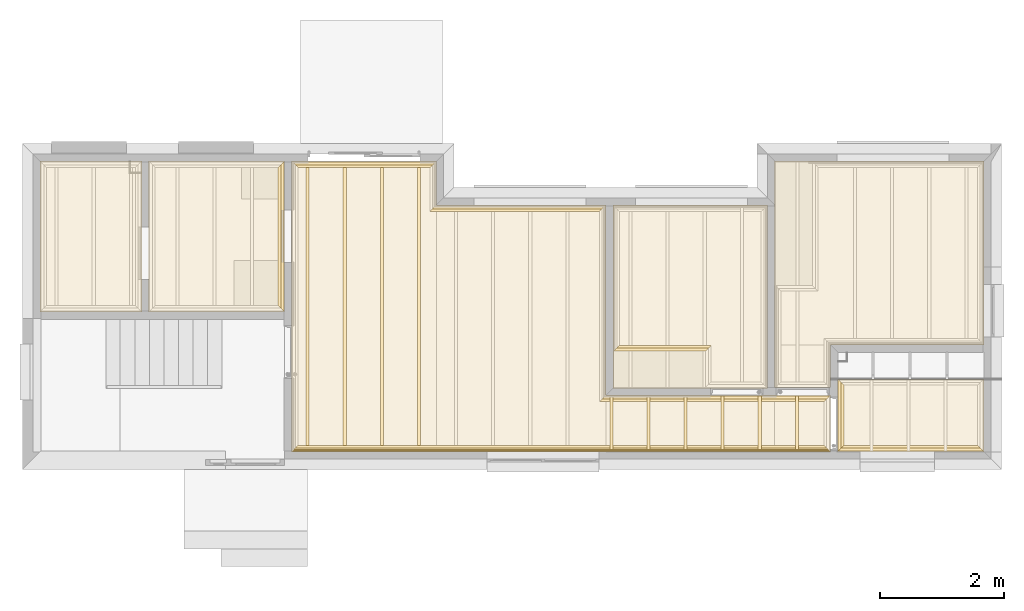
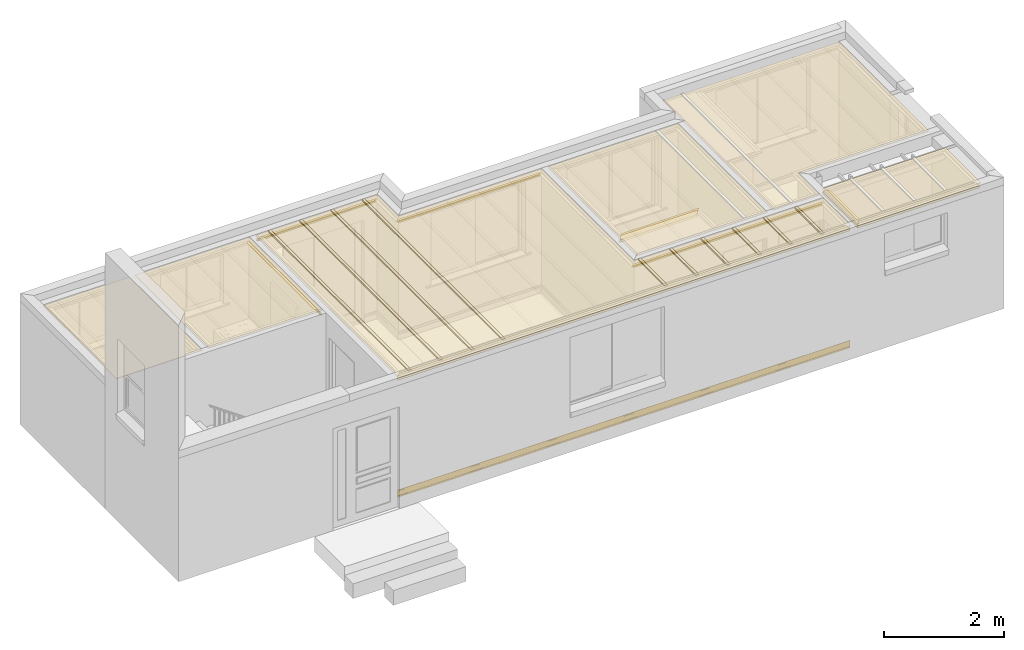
# One storey, part 11 of 15: 12 coverings.
"""IFC2X3 building model written with IfcOpenShell, lengths in millimetres."""

from ifc_helpers import new_model, entity, si_unit, converted_unit, money_unit, direction, frame, origin_with_axes, place, context, subcontext, project, spatial, faceted_brep, source, transform, mapped, material, type_object, element, save


model = new_model("IFC2X3")

# Units and contexts
model_context = context("Model", 3, precision=1e-05, world=origin_with_axes(), true_north=direction((0.0, 1.0)))
body_context = subcontext(model_context, "Body", "Model", "MODEL_VIEW")
ifc_project = project(units=[si_unit("LENGTHUNIT", "METRE", prefix="MILLI"), si_unit("AREAUNIT", "SQUARE_METRE"), si_unit("VOLUMEUNIT", "CUBIC_METRE"), converted_unit("PLANEANGLEUNIT", "DEGREE", entity("IfcPlaneAngleMeasure", 0.0174532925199), si_unit("PLANEANGLEUNIT", "RADIAN"), dimensions=[0, 0, 0, 0, 0, 0, 0]), si_unit("SOLIDANGLEUNIT", "STERADIAN"), money_unit("AUD"), si_unit("TIMEUNIT", "SECOND"), si_unit("MASSUNIT", "GRAM"), si_unit("THERMODYNAMICTEMPERATUREUNIT", "DEGREE_CELSIUS"), si_unit("LUMINOUSINTENSITYUNIT", "LUMEN")], contexts=[model_context])

# Site, building, storey
site_placement = place(None, origin_with_axes())
site = spatial("IfcSite", under=ifc_project, at=site_placement, Name="Lot 1. East Hills", CompositionType="ELEMENT")
building_placement = place(site_placement, origin_with_axes())
building = spatial("IfcBuilding", under=site, at=building_placement, Name="Proposed Units 7 & 8", CompositionType="ELEMENT")
storey_placement = place(building_placement, frame((0.0, 0.0, 3202.0), z_axis=(0.0, 0.0, 1.0), x_axis=(1.0, 0.0, 0.0)))
storey = spatial("IfcBuildingStorey", under=building, at=storey_placement, Name="Ground", CompositionType="ELEMENT", Elevation=3202.0)

# Coverings
ifc_material = material(Name="50 %")
covering_type_1 = type_object("IfcCoveringType", Name="Molding Straight 12", PredefinedType="NOTDEFINED")
shared_shape_1 = source(origin_with_axes(), body_context, "Body", "Brep", [
    faceted_brep([(-3630.00000161, 0.0, -97.7142857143), (0.0, 0.0, -97.7142857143), (-20.5714285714, -20.5714285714, -97.7142857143), (-3650.57143018, -20.5714285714, -97.7142857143), (-3630.00000161, 0.0, -48.8571428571), (0.0, 0.0, -48.8571428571), (-48.8571428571, -48.8571428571, 0.0), (-90.0, -90.0, 0.0), (-90.0, -90.0, -12.8571428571), (-74.5714285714, -74.5714285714, -12.8571428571), (-74.5714285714, -74.5714285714, -25.7142857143), (-60.5952001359, -60.5952001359, -27.5542910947), (-47.5714285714, -47.5714285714, -32.9489139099), (-36.3876623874, -36.3876623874, -41.5305195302), (-27.8060567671, -27.8060567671, -52.7142857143), (-22.4114339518, -22.4114339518, -65.7380572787), (-20.5714285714, -20.5714285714, -79.7142857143), (-3650.57143018, -20.5714285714, -79.7142857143), (-3652.41143556, -22.4114339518, -65.7380572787), (-3657.80605838, -27.8060567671, -52.7142857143), (-3666.387664, -36.3876623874, -41.5305195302), (-3677.57143018, -47.5714285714, -32.9489139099), (-3690.59520175, -60.5952001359, -27.5542910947), (-3704.57143018, -74.5714285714, -25.7142857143), (-3704.57143018, -74.5714285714, -12.8571428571), (-3720.00000161, -90.0, -12.8571428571), (-3720.00000161, -90.0, 0.0), (-3678.85714447, -48.8571428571, 0.0)], [[[0, 1, 2, 3]], [[4, 5, 1, 0]], [[1, 5, 6, 7, 8, 9, 10, 11, 12, 13, 14, 15, 16, 2]], [[3, 2, 16, 17]], [[0, 3, 17, 18, 19, 20, 21, 22, 23, 24, 25, 26, 27, 4]], [[27, 6, 5, 4]], [[26, 7, 6, 27]], [[25, 8, 7, 26]], [[24, 9, 8, 25]], [[23, 10, 9, 24]], [[22, 11, 10, 23]], [[21, 12, 11, 22]], [[20, 13, 12, 21]], [[19, 14, 13, 20]], [[18, 15, 14, 19]], [[17, 16, 15, 18]]]),
])
covering_1_placement = place(storey_placement, frame((13050.0000012, 1183.00000045, 2469.0), z_axis=(0.0, 0.0, 1.0), x_axis=(1.0, 0.0, 0.0)))
element("IfcCovering", 1, at=covering_1_placement, inside=storey, type_object=covering_type_1, material=ifc_material, Name="CEL-MOD-G17 - Molding Straight 12 - object -", PredefinedType="NOTDEFINED", context=body_context, shape_type="MappedRepresentation", body=[
    mapped(shared_shape_1, transform((0.0, 0.0, 0.0))),
])
covering_type_2 = type_object("IfcCoveringType", Name="CEILING BATTEN", PredefinedType="NOTDEFINED")
shared_shape_2 = source(origin_with_axes(), body_context, "Body", "Brep", [
    faceted_brep([(0.0, 0.0, 0.0), (0.0, 0.0, 25.0), (-4675.00000238, 0.0, 25.0), (-4675.00000238, 0.0, 0.0), (0.0, 50.0, 0.0), (0.0, 50.0, 25.0), (-4675.00000238, 50.0, 25.0), (-4675.00000238, 50.0, 0.0)], [[[0, 1, 2, 3]], [[4, 5, 1, 0]], [[1, 5, 6, 2]], [[3, 2, 6, 7]], [[0, 3, 7, 4]], [[7, 6, 5, 4]]]),
    faceted_brep([(0.0, 600.0, 0.0), (0.0, 600.0, 25.0), (-4675.00000238, 600.0, 25.0), (-4675.00000238, 600.0, 0.0), (0.0, 650.0, 0.0), (0.0, 650.0, 25.0), (-4675.00000238, 650.0, 25.0), (-4675.00000238, 650.0, 0.0)], [[[0, 1, 2, 3]], [[4, 5, 1, 0]], [[1, 5, 6, 2]], [[3, 2, 6, 7]], [[0, 3, 7, 4]], [[7, 6, 5, 4]]]),
    faceted_brep([(0.0, 1200.0, 0.0), (0.0, 1200.0, 25.0), (-4675.00000238, 1200.0, 25.0), (-4675.00000238, 1200.0, 0.0), (0.0, 1250.0, 0.0), (0.0, 1250.0, 25.0), (-4675.00000238, 1250.0, 25.0), (-4675.00000238, 1250.0, 0.0)], [[[0, 1, 2, 3]], [[4, 5, 1, 0]], [[1, 5, 6, 2]], [[3, 2, 6, 7]], [[0, 3, 7, 4]], [[7, 6, 5, 4]]]),
    faceted_brep([(0.0, 1800.0, 0.0), (0.0, 1800.0, 25.0), (-4675.00000238, 1800.0, 25.0), (-4675.00000238, 1800.0, 0.0), (0.0, 1850.0, 0.0), (0.0, 1850.0, 25.0), (-4675.00000238, 1850.0, 25.0), (-4675.00000238, 1850.0, 0.0)], [[[0, 1, 2, 3]], [[4, 5, 1, 0]], [[1, 5, 6, 2]], [[3, 2, 6, 7]], [[0, 3, 7, 4]], [[7, 6, 5, 4]]]),
])
covering_2_placement = place(storey_placement, frame((6434.99999955, 4968.00000119, 2482.0), z_axis=(0.0, 0.0, 1.0), x_axis=(0.0, 1.0, 0.0)))
element("IfcCovering", 2, at=covering_2_placement, inside=storey, type_object=covering_type_2, material=ifc_material, Name="CEL-WALL-G09 - CEILING BATTEN - object -", PredefinedType="CEILING", context=body_context, shape_type="MappedRepresentation", body=[
    mapped(shared_shape_2, transform((0.0, 0.0, 0.0))),
])
shared_shape_3 = source(origin_with_axes(), body_context, "Body", "Brep", [
    faceted_brep([(0.0, 0.0, 0.0), (0.0, 0.0, 25.0), (-890.000001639, 0.0, 25.0), (-890.000001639, 0.0, 0.0), (0.0, 50.0, 0.0), (0.0, 50.0, 25.0), (-890.000001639, 50.0, 25.0), (-890.000001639, 50.0, 0.0)], [[[0, 1, 2, 3]], [[4, 5, 1, 0]], [[1, 5, 6, 2]], [[3, 2, 6, 7]], [[0, 3, 7, 4]], [[7, 6, 5, 4]]]),
    faceted_brep([(0.0, 600.0, 0.0), (0.0, 600.0, 25.0), (-890.000001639, 600.0, 25.0), (-890.000001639, 600.0, 0.0), (0.0, 650.0, 0.0), (0.0, 650.0, 25.0), (-890.000001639, 650.0, 25.0), (-890.000001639, 650.0, 0.0)], [[[0, 1, 2, 3]], [[4, 5, 1, 0]], [[1, 5, 6, 2]], [[3, 2, 6, 7]], [[0, 3, 7, 4]], [[7, 6, 5, 4]]]),
    faceted_brep([(0.0, 1200.0, 0.0), (0.0, 1200.0, 25.0), (-890.000001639, 1200.0, 25.0), (-890.000001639, 1200.0, 0.0), (0.0, 1250.0, 0.0), (0.0, 1250.0, 25.0), (-890.000001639, 1250.0, 25.0), (-890.000001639, 1250.0, 0.0)], [[[0, 1, 2, 3]], [[4, 5, 1, 0]], [[1, 5, 6, 2]], [[3, 2, 6, 7]], [[0, 3, 7, 4]], [[7, 6, 5, 4]]]),
    faceted_brep([(0.0, 1800.0, 0.0), (0.0, 1800.0, 25.0), (-890.000001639, 1800.0, 25.0), (-890.000001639, 1800.0, 0.0), (0.0, 1850.0, 0.0), (0.0, 1850.0, 25.0), (-890.000001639, 1850.0, 25.0), (-890.000001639, 1850.0, 0.0)], [[[0, 1, 2, 3]], [[4, 5, 1, 0]], [[1, 5, 6, 2]], [[3, 2, 6, 7]], [[0, 3, 7, 4]], [[7, 6, 5, 4]]]),
    faceted_brep([(0.0, 2400.0, 0.0), (0.0, 2400.0, 25.0), (-890.000001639, 2400.0, 25.0), (-890.000001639, 2400.0, 0.0), (0.0, 2450.0, 0.0), (0.0, 2450.0, 25.0), (-890.000001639, 2450.0, 25.0), (-890.000001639, 2450.0, 0.0)], [[[0, 1, 2, 3]], [[4, 5, 1, 0]], [[1, 5, 6, 2]], [[3, 2, 6, 7]], [[0, 3, 7, 4]], [[7, 6, 5, 4]]]),
    faceted_brep([(0.0, 3000.0, 0.0), (0.0, 3000.0, 25.0), (-890.000001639, 3000.0, 25.0), (-890.000001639, 3000.0, 0.0), (0.0, 3050.0, 0.0), (0.0, 3050.0, 25.0), (-890.000001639, 3050.0, 25.0), (-890.000001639, 3050.0, 0.0)], [[[0, 1, 2, 3]], [[4, 5, 1, 0]], [[1, 5, 6, 2]], [[3, 2, 6, 7]], [[0, 3, 7, 4]], [[7, 6, 5, 4]]]),
])
covering_3_placement = place(storey_placement, frame((12546.5872792, 1183.00000045, 2482.0), z_axis=(0.0, 0.0, 1.0), x_axis=(0.0, 1.0, 0.0)))
element("IfcCovering", 3, at=covering_3_placement, inside=storey, type_object=covering_type_2, material=ifc_material, Name="CEL-BAT-GR05 - CEILING BATTEN - object -", PredefinedType="CEILING", context=body_context, shape_type="MappedRepresentation", body=[
    mapped(shared_shape_3, transform((0.0, 0.0, 0.0))),
])
shared_shape_4 = source(origin_with_axes(), body_context, "Body", "Brep", [
    faceted_brep([(-2409.93638763, 0.0, -97.7142857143), (0.0, 0.0, -97.7142857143), (-20.5714285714, -20.5714285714, -97.7142857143), (-2389.36495906, -20.5714285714, -97.7142857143), (-2409.93638763, 0.0, -48.8571428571), (0.0, 0.0, -48.8571428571), (-48.8571428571, -48.8571428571, 0.0), (-90.0, -90.0, 0.0), (-90.0, -90.0, -12.8571428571), (-74.5714285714, -74.5714285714, -12.8571428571), (-74.5714285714, -74.5714285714, -25.7142857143), (-60.5952001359, -60.5952001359, -27.5542910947), (-47.5714285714, -47.5714285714, -32.9489139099), (-36.3876623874, -36.3876623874, -41.5305195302), (-27.8060567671, -27.8060567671, -52.7142857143), (-22.4114339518, -22.4114339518, -65.7380572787), (-20.5714285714, -20.5714285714, -79.7142857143), (-2389.36495906, -20.5714285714, -79.7142857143), (-2387.52495368, -22.4114339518, -65.7380572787), (-2382.13033086, -27.8060567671, -52.7142857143), (-2373.54872524, -36.3876623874, -41.5305195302), (-2362.36495906, -47.5714285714, -32.9489139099), (-2349.3411875, -60.5952001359, -27.5542910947), (-2335.36495906, -74.5714285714, -25.7142857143), (-2335.36495906, -74.5714285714, -12.8571428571), (-2319.93638763, -90.0, -12.8571428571), (-2319.93638763, -90.0, 0.0), (-2361.07924477, -48.8571428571, 0.0)], [[[0, 1, 2, 3]], [[4, 5, 1, 0]], [[1, 5, 6, 7, 8, 9, 10, 11, 12, 13, 14, 15, 16, 2]], [[3, 2, 16, 17]], [[0, 3, 17, 18, 19, 20, 21, 22, 23, 24, 25, 26, 27, 4]], [[27, 6, 5, 4]], [[26, 7, 6, 27]], [[25, 8, 7, 26]], [[24, 9, 8, 25]], [[23, 10, 9, 24]], [[22, 11, 10, 23]], [[21, 12, 11, 22]], [[20, 13, 12, 21]], [[19, 14, 13, 20]], [[18, 15, 14, 19]], [[17, 16, 15, 18]]]),
])
covering_4_placement = place(storey_placement, frame((4225.02032632, 2558.06361356, 2469.0), z_axis=(0.0, 0.0, 1.0), x_axis=(0.0, -1.0, 0.0)))
element("IfcCovering", 4, at=covering_4_placement, inside=storey, type_object=covering_type_1, material=ifc_material, Name="CEL-MOD-G31 - Molding Straight 12 - object -", PredefinedType="NOTDEFINED", context=body_context, shape_type="MappedRepresentation", body=[
    mapped(shared_shape_4, transform((0.0, 0.0, 0.0))),
])
shared_shape_5 = source(origin_with_axes(), body_context, "Body", "Brep", [
    faceted_brep([(-1154.99948048, 0.0, -97.7142857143), (0.0, 0.0, -97.7142857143), (-20.5714285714, -20.5714285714, -97.7142857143), (-1134.42805191, -20.5714285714, -97.7142857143), (-1154.99948048, 0.0, -48.8571428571), (0.0, 0.0, -48.8571428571), (-48.8571428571, -48.8571428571, 0.0), (-90.0, -90.0, 0.0), (-90.0, -90.0, -12.8571428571), (-74.5714285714, -74.5714285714, -12.8571428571), (-74.5714285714, -74.5714285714, -25.7142857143), (-60.5952001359, -60.5952001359, -27.5542910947), (-47.5714285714, -47.5714285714, -32.9489139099), (-36.3876623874, -36.3876623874, -41.5305195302), (-27.8060567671, -27.8060567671, -52.7142857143), (-22.4114339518, -22.4114339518, -65.7380572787), (-20.5714285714, -20.5714285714, -79.7142857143), (-1134.42805191, -20.5714285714, -79.7142857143), (-1132.58804653, -22.4114339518, -65.7380572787), (-1127.19342372, -27.8060567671, -52.7142857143), (-1118.6118181, -36.3876623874, -41.5305195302), (-1107.42805191, -47.5714285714, -32.9489139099), (-1094.40428035, -60.5952001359, -27.5542910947), (-1080.42805191, -74.5714285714, -25.7142857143), (-1080.42805191, -74.5714285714, -12.8571428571), (-1064.99948048, -90.0, -12.8571428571), (-1064.99948048, -90.0, 0.0), (-1106.14233763, -48.8571428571, 0.0)], [[[0, 1, 2, 3]], [[4, 5, 1, 0]], [[1, 5, 6, 7, 8, 9, 10, 11, 12, 13, 14, 15, 16, 2]], [[3, 2, 16, 17]], [[0, 3, 17, 18, 19, 20, 21, 22, 23, 24, 25, 26, 27, 4]], [[27, 6, 5, 4]], [[26, 7, 6, 27]], [[25, 8, 7, 26]], [[24, 9, 8, 25]], [[23, 10, 9, 24]], [[22, 11, 10, 23]], [[21, 12, 11, 22]], [[20, 13, 12, 21]], [[19, 14, 13, 20]], [[18, 15, 14, 19]], [[17, 16, 15, 18]]]),
])
covering_5_placement = place(storey_placement, frame((13190.0000012, 1447.99947929, 2469.0), z_axis=(0.0, 0.0, 1.0), x_axis=(0.0, 1.0, 0.0)))
element("IfcCovering", 5, at=covering_5_placement, inside=storey, type_object=covering_type_1, material=ifc_material, Name="CEL-MOD-G27 - Molding Straight 12 - object -", PredefinedType="NOTDEFINED", context=body_context, shape_type="MappedRepresentation", body=[
    mapped(shared_shape_5, transform((0.0, 0.0, 0.0))),
])
shared_shape_6 = source(origin_with_axes(), body_context, "Body", "Brep", [
    faceted_brep([(2344.99999999, 0.0, -97.7142857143), (2324.42857142, -20.5714285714, -97.7142857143), (20.5714285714, -20.5714285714, -97.7142857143), (0.0, 0.0, -97.7142857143), (2344.99999999, 0.0, -48.8571428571), (2296.14285714, -48.8571428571, 0.0), (2254.99999999, -90.0, 0.0), (2254.99999999, -90.0, -12.8571428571), (2270.42857142, -74.5714285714, -12.8571428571), (2270.42857142, -74.5714285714, -25.7142857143), (2284.40479986, -60.5952001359, -27.5542910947), (2297.42857142, -47.5714285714, -32.9489139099), (2308.61233761, -36.3876623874, -41.5305195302), (2317.19394323, -27.8060567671, -52.7142857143), (2322.58856604, -22.4114339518, -65.7380572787), (2324.42857142, -20.5714285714, -79.7142857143), (20.5714285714, -20.5714285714, -79.7142857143), (22.4114339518, -22.4114339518, -65.7380572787), (27.8060567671, -27.8060567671, -52.7142857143), (36.3876623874, -36.3876623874, -41.5305195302), (47.5714285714, -47.5714285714, -32.9489139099), (60.5952001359, -60.5952001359, -27.5542910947), (74.5714285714, -74.5714285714, -25.7142857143), (74.5714285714, -74.5714285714, -12.8571428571), (90.0, -90.0, -12.8571428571), (90.0, -90.0, 0.0), (48.8571428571, -48.8571428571, 0.0), (0.0, 0.0, -48.8571428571)], [[[0, 1, 2, 3]], [[0, 4, 5, 6, 7, 8, 9, 10, 11, 12, 13, 14, 15, 1]], [[1, 15, 16, 2]], [[3, 2, 16, 17, 18, 19, 20, 21, 22, 23, 24, 25, 26, 27]], [[4, 0, 3, 27]], [[5, 4, 27, 26]], [[6, 5, 26, 25]], [[7, 6, 25, 24]], [[8, 7, 24, 23]], [[9, 8, 23, 22]], [[10, 9, 22, 21]], [[11, 10, 21, 20]], [[12, 11, 20, 19]], [[13, 12, 19, 18]], [[14, 13, 18, 17]], [[15, 14, 17, 16]]]),
])
covering_6_placement = place(storey_placement, frame((15535.0000012, 292.999998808, 2469.0), z_axis=(0.0, 0.0, 1.0), x_axis=(-1.0, 0.0, 0.0)))
element("IfcCovering", 6, at=covering_6_placement, inside=storey, type_object=covering_type_1, material=ifc_material, Name="CEL-MOD-G20 - Molding Straight 12 - object -", PredefinedType="NOTDEFINED", context=body_context, shape_type="MappedRepresentation", body=[
    mapped(shared_shape_6, transform((0.0, 0.0, 0.0))),
])
shared_shape_7 = source(origin_with_axes(), body_context, "Body", "Brep", [
    faceted_brep([(-2314.9977856, 0.0, -97.7142857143), (0.0, 0.0, -97.7142857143), (-20.5714285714, -20.5714285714, -97.7142857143), (-2294.42635702, -20.5714285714, -97.7142857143), (-2314.9977856, 0.0, -48.8571428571), (0.0, 0.0, -48.8571428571), (-48.8571428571, -48.8571428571, 0.0), (-90.0, -90.0, 0.0), (-90.0, -90.0, -12.8571428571), (-74.5714285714, -74.5714285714, -12.8571428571), (-74.5714285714, -74.5714285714, -25.7142857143), (-60.5952001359, -60.5952001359, -27.5542910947), (-47.5714285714, -47.5714285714, -32.9489139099), (-36.3876623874, -36.3876623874, -41.5305195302), (-27.8060567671, -27.8060567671, -52.7142857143), (-22.4114339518, -22.4114339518, -65.7380572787), (-20.5714285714, -20.5714285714, -79.7142857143), (-2294.42635702, -20.5714285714, -79.7142857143), (-2292.58635164, -22.4114339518, -65.7380572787), (-2287.19172883, -27.8060567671, -52.7142857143), (-2278.61012321, -36.3876623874, -41.5305195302), (-2267.42635702, -47.5714285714, -32.9489139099), (-2254.40258546, -60.5952001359, -27.5542910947), (-2240.42635702, -74.5714285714, -25.7142857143), (-2240.42635702, -74.5714285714, -12.8571428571), (-2224.9977856, -90.0, -12.8571428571), (-2224.9977856, -90.0, 0.0), (-2266.14064274, -48.8571428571, 0.0)], [[[0, 1, 2, 3]], [[4, 5, 1, 0]], [[1, 5, 6, 7, 8, 9, 10, 11, 12, 13, 14, 15, 16, 2]], [[3, 2, 16, 17]], [[0, 3, 17, 18, 19, 20, 21, 22, 23, 24, 25, 26, 27, 4]], [[27, 6, 5, 4]], [[26, 7, 6, 27]], [[25, 8, 7, 26]], [[24, 9, 8, 25]], [[23, 10, 9, 24]], [[22, 11, 10, 23]], [[21, 12, 11, 22]], [[20, 13, 12, 21]], [[19, 14, 13, 20]], [[18, 15, 14, 19]], [[17, 16, 15, 18]]]),
])
covering_7_placement = place(storey_placement, frame((6680.00000119, 4968.00000119, 2469.0), z_axis=(0.0, 0.0, 1.0), x_axis=(1.0, 0.0, 0.0)))
element("IfcCovering", 7, at=covering_7_placement, inside=storey, type_object=covering_type_1, material=ifc_material, Name="U2_HANDBASIN - Molding Straight 12 - object -", PredefinedType="NOTDEFINED", context=body_context, shape_type="MappedRepresentation", body=[
    mapped(shared_shape_7, transform((0.0, 0.0, 0.0))),
])
shared_shape_8 = source(origin_with_axes(), body_context, "Body", "Brep", [
    faceted_brep([(8684.9977862, 0.0, -97.7142857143), (8664.42635763, -20.5714285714, -97.7142857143), (20.5714285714, -20.5714285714, -97.7142857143), (0.0, 0.0, -97.7142857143), (8684.9977862, 0.0, -48.8571428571), (8636.14064334, -48.8571428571, 0.0), (8594.9977862, -90.0, 0.0), (8594.9977862, -90.0, -12.8571428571), (8610.42635763, -74.5714285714, -12.8571428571), (8610.42635763, -74.5714285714, -25.7142857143), (8624.40258606, -60.5952001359, -27.5542910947), (8637.42635763, -47.5714285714, -32.9489139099), (8648.61012381, -36.3876623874, -41.5305195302), (8657.19172943, -27.8060567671, -52.7142857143), (8662.58635225, -22.4114339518, -65.7380572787), (8664.42635763, -20.5714285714, -79.7142857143), (20.5714285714, -20.5714285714, -79.7142857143), (22.4114339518, -22.4114339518, -65.7380572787), (27.8060567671, -27.8060567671, -52.7142857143), (36.3876623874, -36.3876623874, -41.5305195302), (47.5714285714, -47.5714285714, -32.9489139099), (60.5952001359, -60.5952001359, -27.5542910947), (74.5714285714, -74.5714285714, -25.7142857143), (74.5714285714, -74.5714285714, -12.8571428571), (90.0, -90.0, -12.8571428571), (90.0, -90.0, 0.0), (48.8571428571, -48.8571428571, 0.0), (0.0, 0.0, -48.8571428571)], [[[0, 1, 2, 3]], [[0, 4, 5, 6, 7, 8, 9, 10, 11, 12, 13, 14, 15, 1]], [[1, 15, 16, 2]], [[3, 2, 16, 17, 18, 19, 20, 21, 22, 23, 24, 25, 26, 27]], [[4, 0, 3, 27]], [[5, 4, 27, 26]], [[6, 5, 26, 25]], [[7, 6, 25, 24]], [[8, 7, 24, 23]], [[9, 8, 23, 22]], [[10, 9, 22, 21]], [[11, 10, 21, 20]], [[12, 11, 20, 19]], [[13, 12, 19, 18]], [[14, 13, 18, 17]], [[15, 14, 17, 16]]]),
])
covering_8_placement = place(storey_placement, frame((13050.0000018, 292.999998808, 2469.0), z_axis=(0.0, 0.0, 1.0), x_axis=(-1.0, 0.0, 0.0)))
element("IfcCovering", 8, at=covering_8_placement, inside=storey, type_object=covering_type_1, material=ifc_material, Name="CEL-MOD-G11 - Molding Straight 12 - object -", PredefinedType="NOTDEFINED", context=body_context, shape_type="MappedRepresentation", body=[
    mapped(shared_shape_8, transform((0.0, 0.0, 0.0))),
])
shared_shape_9 = source(origin_with_axes(), body_context, "Body", "Brep", [
    faceted_brep([(-2739.99999836, 0.0, -97.7142857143), (0.0, 0.0, -97.7142857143), (-20.5714285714, -20.5714285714, -97.7142857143), (-2760.57142693, -20.5714285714, -97.7142857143), (-2739.99999836, 0.0, -48.8571428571), (0.0, 0.0, -48.8571428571), (-48.8571428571, -48.8571428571, 0.0), (-90.0, -90.0, 0.0), (-90.0, -90.0, -12.8571428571), (-74.5714285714, -74.5714285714, -12.8571428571), (-74.5714285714, -74.5714285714, -25.7142857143), (-60.5952001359, -60.5952001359, -27.5542910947), (-47.5714285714, -47.5714285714, -32.9489139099), (-36.3876623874, -36.3876623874, -41.5305195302), (-27.8060567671, -27.8060567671, -52.7142857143), (-22.4114339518, -22.4114339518, -65.7380572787), (-20.5714285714, -20.5714285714, -79.7142857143), (-2760.57142693, -20.5714285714, -79.7142857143), (-2762.41143231, -22.4114339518, -65.7380572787), (-2767.80605513, -27.8060567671, -52.7142857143), (-2776.38766075, -36.3876623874, -41.5305195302), (-2787.57142693, -47.5714285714, -32.9489139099), (-2800.5951985, -60.5952001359, -27.5542910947), (-2814.57142693, -74.5714285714, -25.7142857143), (-2814.57142693, -74.5714285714, -12.8571428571), (-2829.99999836, -90.0, -12.8571428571), (-2829.99999836, -90.0, 0.0), (-2788.85714122, -48.8571428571, 0.0)], [[[0, 1, 2, 3]], [[4, 5, 1, 0]], [[1, 5, 6, 7, 8, 9, 10, 11, 12, 13, 14, 15, 16, 2]], [[3, 2, 16, 17]], [[0, 3, 17, 18, 19, 20, 21, 22, 23, 24, 25, 26, 27, 4]], [[27, 6, 5, 4]], [[26, 7, 6, 27]], [[25, 8, 7, 26]], [[24, 9, 8, 25]], [[23, 10, 9, 24]], [[22, 11, 10, 23]], [[21, 12, 11, 22]], [[20, 13, 12, 21]], [[19, 14, 13, 20]], [[18, 15, 14, 19]], [[17, 16, 15, 18]]]),
])
covering_9_placement = place(storey_placement, frame((9419.99999955, 4258.00000119, 2469.0), z_axis=(0.0, 0.0, 1.0), x_axis=(1.0, 0.0, 0.0)))
element("IfcCovering", 9, at=covering_9_placement, inside=storey, type_object=covering_type_1, material=ifc_material, Name="U2_HANDBASIN - Molding Straight 12 - object -", PredefinedType="NOTDEFINED", context=body_context, shape_type="MappedRepresentation", body=[
    mapped(shared_shape_9, transform((0.0, 0.0, 0.0))),
])
shared_shape_10 = source(origin_with_axes(), body_context, "Body", "Brep", [
    faceted_brep([(-1485.0, 0.0, -97.7142857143), (0.0, 0.0, -97.7142857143), (-20.5714285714, -20.5714285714, -97.7142857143), (-1505.57142857, -20.5714285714, -97.7142857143), (-1485.0, 0.0, -48.8571428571), (0.0, 0.0, -48.8571428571), (-48.8571428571, -48.8571428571, 0.0), (-90.0, -90.0, 0.0), (-90.0, -90.0, -12.8571428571), (-74.5714285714, -74.5714285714, -12.8571428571), (-74.5714285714, -74.5714285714, -25.7142857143), (-60.5952001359, -60.5952001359, -27.5542910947), (-47.5714285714, -47.5714285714, -32.9489139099), (-36.3876623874, -36.3876623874, -41.5305195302), (-27.8060567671, -27.8060567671, -52.7142857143), (-22.4114339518, -22.4114339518, -65.7380572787), (-20.5714285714, -20.5714285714, -79.7142857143), (-1505.57142857, -20.5714285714, -79.7142857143), (-1507.41143395, -22.4114339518, -65.7380572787), (-1512.80605677, -27.8060567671, -52.7142857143), (-1521.38766239, -36.3876623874, -41.5305195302), (-1532.57142857, -47.5714285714, -32.9489139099), (-1545.59520014, -60.5952001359, -27.5542910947), (-1559.57142857, -74.5714285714, -25.7142857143), (-1559.57142857, -74.5714285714, -12.8571428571), (-1575.0, -90.0, -12.8571428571), (-1575.0, -90.0, 0.0), (-1533.85714286, -48.8571428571, 0.0)], [[[0, 1, 2, 3]], [[4, 5, 1, 0]], [[1, 5, 6, 7, 8, 9, 10, 11, 12, 13, 14, 15, 16, 2]], [[3, 2, 16, 17]], [[0, 3, 17, 18, 19, 20, 21, 22, 23, 24, 25, 26, 27, 4]], [[27, 6, 5, 4]], [[26, 7, 6, 27]], [[25, 8, 7, 26]], [[24, 9, 8, 25]], [[23, 10, 9, 24]], [[22, 11, 10, 23]], [[21, 12, 11, 22]], [[20, 13, 12, 21]], [[19, 14, 13, 20]], [[18, 15, 14, 19]], [[17, 16, 15, 18]]]),
])
covering_10_placement = place(storey_placement, frame((9559.99999896, 1908.65696632, 2469.0), z_axis=(0.0, 0.0, 1.0), x_axis=(-1.0, 0.0, 0.0)))
element("IfcCovering", 10, at=covering_10_placement, inside=storey, type_object=covering_type_1, material=ifc_material, Name="U2_HANDBASIN - Molding Straight 12 - object -", PredefinedType="NOTDEFINED", context=body_context, shape_type="MappedRepresentation", body=[
    mapped(shared_shape_10, transform((0.0, 0.0, 0.0))),
])
covering_type_3 = type_object("IfcCoveringType", Name="CEILING BOARDS", PredefinedType="NOTDEFINED")
shared_shape_11 = source(origin_with_axes(), body_context, "Body", "Brep", [
    faceted_brep([(1650.00000082, 4705.00000268, 0.0), (0.0, 4705.00000268, 0.0), (0.0, 4705.00000268, 13.0), (1650.00000082, 4705.00000268, 13.0), (1650.00000082, 2265.00000199, 0.0), (0.0, 2265.00000199, 0.0), (0.0, 2265.00000199, 13.0), (1650.00000082, 2265.00000199, 13.0)], [[[0, 1, 2, 3]], [[0, 4, 5, 1]], [[1, 5, 6, 2]], [[3, 2, 6, 7]], [[4, 0, 3, 7]], [[5, 4, 7, 6]]]),
    faceted_brep([(3960.00000035, 4705.00000268, 0.0), (1760.00000023, 4705.00000268, 0.0), (1760.00000023, 4705.00000268, 13.0), (3960.00000035, 4705.00000268, 13.0), (3960.00000035, 2265.00000199, 0.0), (1760.00000023, 2265.00000199, 0.0), (1760.00000023, 2265.00000199, 13.0), (3960.00000035, 2265.00000199, 13.0)], [[[0, 1, 2, 3]], [[0, 4, 5, 1]], [[1, 5, 6, 2]], [[3, 2, 6, 7]], [[4, 0, 3, 7]], [[5, 4, 7, 6]]]),
    faceted_brep([(4069.99999976, 0.0, 0.0), (12785.0000029, 0.0, 0.0), (12785.0000029, 0.0, 13.0), (4069.99999976, 0.0, 13.0), (4069.99999976, 4705.00000268, 0.0), (6415.00000191, 4705.00000268, 0.0), (6415.00000191, 3995.00000248, 0.0), (9155.00000103, 3995.00000248, 0.0), (9155.00000103, 920.00000138, 0.0), (12785.0000029, 920.00000138, 0.0), (12785.0000029, 920.00000138, 13.0), (9155.00000103, 920.00000138, 13.0), (9155.00000103, 3995.00000248, 13.0), (6415.00000191, 3995.00000248, 13.0), (6415.00000191, 4705.00000268, 13.0), (4069.99999976, 4705.00000268, 13.0)], [[[0, 1, 2, 3]], [[0, 4, 5, 6, 7, 8, 9, 1]], [[1, 9, 10, 2]], [[3, 2, 10, 11, 12, 13, 14, 15]], [[4, 0, 3, 15]], [[5, 4, 15, 14]], [[6, 5, 14, 13]], [[7, 6, 13, 12]], [[8, 7, 12, 11]], [[9, 8, 11, 10]]]),
    faceted_brep([(11770.0000108, 3995.0000025, 0.0), (9265.00000044, 3995.0000025, 0.0), (9265.00000044, 3995.0000025, 13.0), (11770.0000108, 3995.0000025, 13.0), (11770.0000108, 1030.00000081, 0.0), (9265.00000044, 1030.00000081, 0.0), (9265.00000044, 1030.00000081, 13.0), (11770.0000108, 1030.00000081, 13.0)], [[[0, 1, 2, 3]], [[0, 4, 5, 1]], [[1, 5, 6, 2]], [[3, 2, 6, 7]], [[4, 0, 3, 7]], [[5, 4, 7, 6]]]),
    faceted_brep([(15269.9999934, 4705.00000268, 0.0), (11880.000001, 4705.00000268, 0.0), (11880.000001, 4705.00000268, 13.0), (15269.9999934, 4705.00000268, 13.0), (15269.9999934, 1730.00000616, 0.0), (12785.0000024, 1730.00000616, 0.0), (12785.0000024, 1040.00000082, 0.0), (11880.000001, 1040.00000082, 0.0), (11880.000001, 1040.00000082, 13.0), (12785.0000024, 1040.00000082, 13.0), (12785.0000024, 1730.00000616, 13.0), (15269.9999934, 1730.00000616, 13.0)], [[[0, 1, 2, 3]], [[0, 4, 5, 6, 7, 1]], [[1, 7, 8, 2]], [[3, 2, 8, 9, 10, 11]], [[4, 0, 3, 11]], [[5, 4, 11, 10]], [[6, 5, 10, 9]], [[7, 6, 9, 8]]]),
    faceted_brep([(12895.0000019, 1170.00000033, 0.0), (12895.0000019, 0.0, 0.0), (12895.0000019, 0.0, 13.0), (12895.0000019, 1170.00000033, 13.0), (15270.0000027, 1170.00000033, 0.0), (15270.0000027, 0.0, 0.0), (15270.0000027, 0.0, 13.0), (15270.0000027, 1170.00000033, 13.0)], [[[0, 1, 2, 3]], [[0, 4, 5, 1]], [[1, 5, 6, 2]], [[3, 2, 6, 7]], [[4, 0, 3, 7]], [[5, 4, 7, 6]]]),
])
covering_11_placement = place(storey_placement, frame((279.999999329, 277.999999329, 2469.0), z_axis=(0.0, 0.0, 1.0), x_axis=(1.0, 0.0, 0.0)))
element("IfcCovering", 11, at=covering_11_placement, inside=storey, type_object=covering_type_3, material=ifc_material, Name="CEL-COVER-G01 - CEILING BOARDS - object -", PredefinedType="CEILING", context=body_context, shape_type="MappedRepresentation", body=[
    mapped(shared_shape_11, transform((0.0, 0.0, 0.0))),
])
shared_shape_12 = source(origin_with_axes(), body_context, "Body", "Brep", [
    faceted_brep([(8665.93280387, -19.0298507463, -150.0), (8665.93280387, -19.0298507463, -40.2985074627), (0.0, -19.0298507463, -40.2985074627), (0.0, -19.0298507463, -150.0), (8684.96265462, 0.0, -150.0), (8684.96265462, 0.0, -120.895522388), (8682.72384865, -2.23880597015, -118.656716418), (8682.72384865, -2.23880597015, -24.6268656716), (8684.96265462, 0.0, -22.3880597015), (8684.96265462, 0.0, 0.0), (8678.24623671, -6.71641791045, 0.0), (8676.00743074, -8.9552238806, -4.4776119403), (8675.77068395, -9.19197067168, -5.17383533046), (8675.72949554, -9.23315907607, -5.90805571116), (8675.88688829, -9.07576633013, -6.62638959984), (8676.23131133, -8.73134328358, -7.27611940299), (8676.79144158, -8.1712130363, -8.36014699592), (8677.01489342, -7.94776119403, -9.55970149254), (8676.7141178, -8.2485368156, -12.6066468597), (8675.60476546, -9.35788915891, -15.4603601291), (8673.76862477, -11.1940298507, -17.9104477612), (8669.34145711, -15.6211975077, -24.0923863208), (8667.05220686, -17.9104477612, -31.3432835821), (8667.03693394, -17.9257206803, -33.6342255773), (8667.66117653, -17.3014780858, -35.8385326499), (8668.87540034, -16.087254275, -37.7812907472), (8670.58325545, -14.3793991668, -39.3083399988), (8672.64922178, -12.3134328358, -40.2985074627), (0.0, -12.3134328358, -40.2985074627), (0.0, -14.3793991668, -39.3083399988), (0.0, -16.087254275, -37.7812907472), (0.0, -17.3014780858, -35.8385326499), (0.0, -17.9257206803, -33.6342255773), (0.0, -17.9104477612, -31.3432835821), (0.0, -15.6211975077, -24.0923863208), (0.0, -11.1940298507, -17.9104477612), (0.0, -9.35788915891, -15.4603601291), (0.0, -8.2485368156, -12.6066468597), (0.0, -7.94776119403, -9.55970149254), (0.0, -8.1712130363, -8.36014699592), (0.0, -8.73134328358, -7.27611940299), (0.0, -9.07576633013, -6.62638959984), (0.0, -9.23315907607, -5.90805571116), (0.0, -9.19197067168, -5.17383533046), (0.0, -8.9552238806, -4.4776119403), (0.0, -6.71641791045, 0.0), (0.0, 0.0, 0.0), (0.0, 0.0, -22.3880597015), (0.0, -2.23880597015, -24.6268656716), (0.0, -2.23880597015, -118.656716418), (0.0, 0.0, -120.895522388), (0.0, 0.0, -150.0)], [[[0, 1, 2, 3]], [[0, 4, 5, 6, 7, 8, 9, 10, 11, 12, 13, 14, 15, 16, 17, 18, 19, 20, 21, 22, 23, 24, 25, 26, 27, 1]], [[1, 27, 28, 2]], [[3, 2, 28, 29, 30, 31, 32, 33, 34, 35, 36, 37, 38, 39, 40, 41, 42, 43, 44, 45, 46, 47, 48, 49, 50, 51]], [[4, 0, 3, 51]], [[5, 4, 51, 50]], [[6, 5, 50, 49]], [[7, 6, 49, 48]], [[8, 7, 48, 47]], [[9, 8, 47, 46]], [[10, 9, 46, 45]], [[11, 10, 45, 44]], [[12, 11, 44, 43]], [[13, 12, 43, 42]], [[14, 13, 42, 41]], [[15, 14, 41, 40]], [[16, 15, 40, 39]], [[17, 16, 39, 38]], [[18, 17, 38, 37]], [[19, 18, 37, 36]], [[20, 19, 36, 35]], [[21, 20, 35, 34]], [[22, 21, 34, 33]], [[23, 22, 33, 32]], [[24, 23, 32, 31]], [[25, 24, 31, 30]], [[26, 25, 30, 29]], [[27, 26, 29, 28]]]),
])
covering_12_placement = place(storey_placement, frame((13050.0000018, 292.999998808, 150.0), z_axis=(0.0, 0.0, 1.0), x_axis=(-1.0, 0.0, 0.0)))
element("IfcCovering", 12, at=covering_12_placement, inside=storey, type_object=covering_type_1, material=ifc_material, Name="Sk_01 - Molding Straight 12 - object -", PredefinedType="NOTDEFINED", context=body_context, shape_type="MappedRepresentation", body=[
    mapped(shared_shape_12, transform((0.0, 0.0, 0.0))),
])

save(model, "model.ifc")
